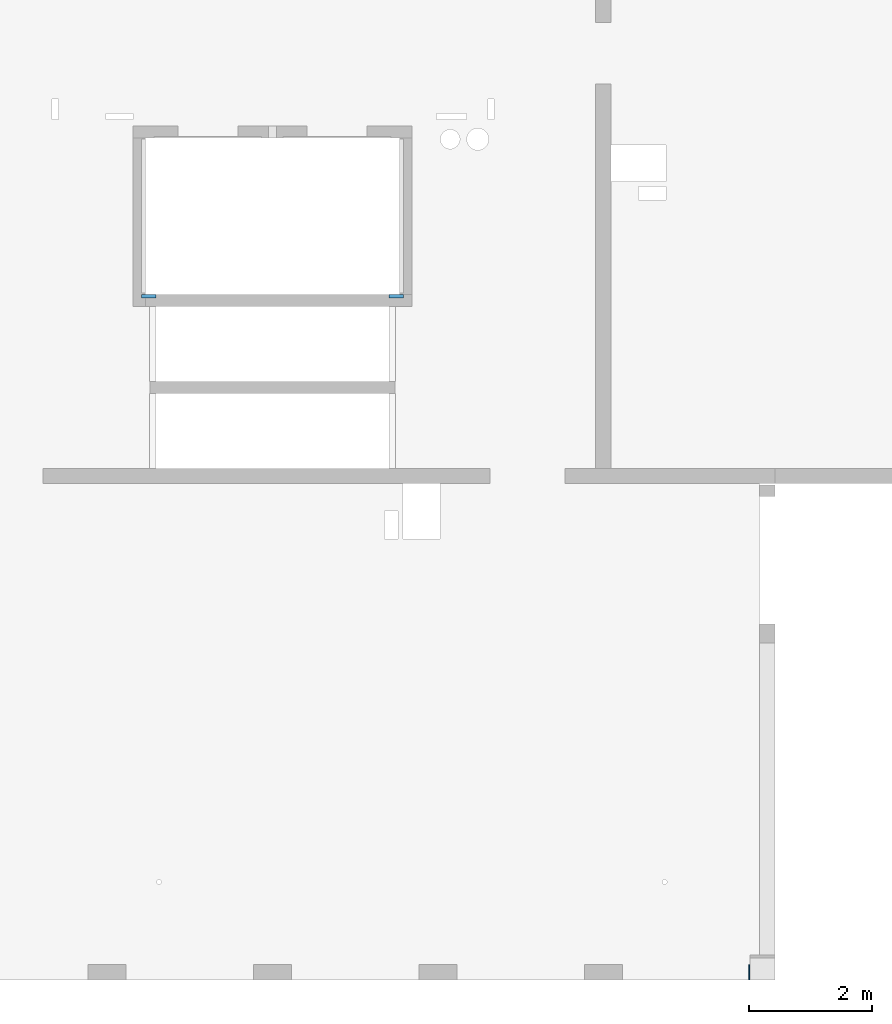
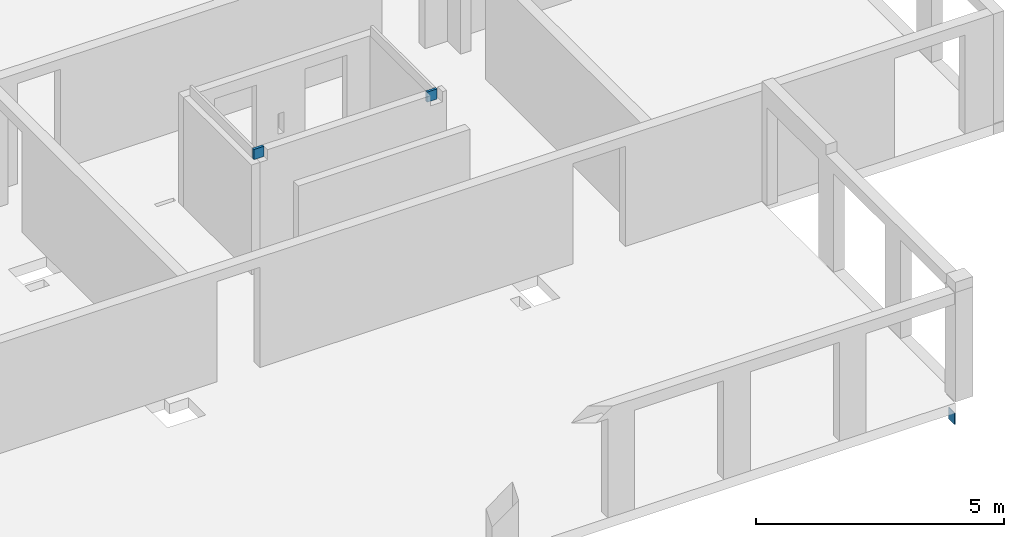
# One storey, part 7 of 8: 3 walls.
"""IFC2X3 building model written with IfcOpenShell, lengths in millimetres."""

from ifc_helpers import new_model, entity, si_unit, converted_unit, derived_unit, direction, frame, frame_2d, origin, place, context, subcontext, project, spatial, rectangle, extrude, material, layer, layer_set, layer_usage, type_object, element, save


model = new_model("IFC2X3")

# Units and contexts
model_context = context("Model", 3, precision=0.01, world=origin(), true_north=direction((6.12303176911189e-17, 1.0)))
body_context = subcontext(model_context, "Body", "Model", "MODEL_VIEW")
ifc_project = project(units=[si_unit("LENGTHUNIT", "METRE", prefix="MILLI"), si_unit("AREAUNIT", "SQUARE_METRE"), si_unit("VOLUMEUNIT", "CUBIC_METRE"), converted_unit("PLANEANGLEUNIT", "DEGREE", entity("IfcRatioMeasure", 0.0174532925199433), si_unit("PLANEANGLEUNIT", "RADIAN"), dimensions=[0, 0, 0, 0, 0, 0, 0]), si_unit("MASSUNIT", "GRAM", prefix="KILO"), derived_unit("MASSDENSITYUNIT", [(si_unit("MASSUNIT", "GRAM", prefix="KILO"), 1), (si_unit("LENGTHUNIT", "METRE"), -3)]), si_unit("TIMEUNIT", "SECOND"), si_unit("FREQUENCYUNIT", "HERTZ"), si_unit("THERMODYNAMICTEMPERATUREUNIT", "DEGREE_CELSIUS"), derived_unit("THERMALTRANSMITTANCEUNIT", [(si_unit("MASSUNIT", "GRAM", prefix="KILO"), 1), (si_unit("THERMODYNAMICTEMPERATUREUNIT", "KELVIN"), -1), (si_unit("TIMEUNIT", "SECOND"), -3)]), derived_unit("VOLUMETRICFLOWRATEUNIT", [(si_unit("LENGTHUNIT", "METRE"), 3), (si_unit("TIMEUNIT", "SECOND"), -1)]), si_unit("ELECTRICCURRENTUNIT", "AMPERE"), si_unit("ELECTRICVOLTAGEUNIT", "VOLT"), si_unit("POWERUNIT", "WATT"), si_unit("FORCEUNIT", "NEWTON", prefix="KILO"), si_unit("ILLUMINANCEUNIT", "LUX"), si_unit("LUMINOUSFLUXUNIT", "LUMEN"), si_unit("LUMINOUSINTENSITYUNIT", "CANDELA"), derived_unit("USERDEFINED", [(si_unit("MASSUNIT", "GRAM", prefix="KILO"), -1), (si_unit("LENGTHUNIT", "METRE"), -2), (si_unit("TIMEUNIT", "SECOND"), 3), (si_unit("LUMINOUSFLUXUNIT", "LUMEN"), 1)]), derived_unit("LINEARVELOCITYUNIT", [(si_unit("LENGTHUNIT", "METRE"), 1), (si_unit("TIMEUNIT", "SECOND"), -1)]), si_unit("PRESSUREUNIT", "PASCAL"), derived_unit("USERDEFINED", [(si_unit("LENGTHUNIT", "METRE"), -2), (si_unit("MASSUNIT", "GRAM", prefix="KILO"), 1), (si_unit("TIMEUNIT", "SECOND"), -2)])], contexts=[model_context])

# Site, building, storey
site_placement = place(None, origin())
site = spatial("IfcSite", under=ifc_project, at=site_placement, Name="Default", CompositionType="ELEMENT")
building_placement = place(site_placement, origin())
building = spatial("IfcBuilding", under=site, at=building_placement, Name="niet gebruiken", CompositionType="ELEMENT")
storey_placement = place(building_placement, frame((0.0, 0.0, 51210.0)))
storey = spatial("IfcBuildingStorey", under=building, at=storey_placement, Name="17 zeventiende verdieping", CompositionType="ELEMENT", Elevation=51210.0)

# Walls
ifc_material_1 = material(Name="NLRS_f2_beton ihwg")
ifc_layer_1 = layer(ifc_material_1, 250.0)
ifc_layer_set_1 = layer_set([ifc_layer_1], Name="Basic Wall:NLRS_21.21_WA_beton ihwg d=250_gen")
ifc_layer_usage_1 = layer_usage(ifc_layer_set_1, "AXIS2", "NEGATIVE", 125.0)
wall_type_1 = type_object("IfcWallType", Name="Basic Wall:NLRS_21.21_WA_beton ihwg d=250_gen", PredefinedType="STANDARD", material=ifc_layer_set_1)
wall_1_placement = place(storey_placement, frame((99570.0, 28881.0, -620.0)))
element("IfcWallStandardCase", 1, at=wall_1_placement, inside=storey, type_object=wall_type_1, material=ifc_layer_usage_1, Name="Basic Wall:NLRS_21.21_WA_beton ihwg d=250_gen", ObjectType="Basic Wall:NLRS_21.21_WA_beton ihwg d=250_gen", context=body_context, shape_type="SweptSolid", body=[
    extrude(rectangle(XDim=19.9999999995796, YDim=250.000000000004, at=frame_2d((9.99999999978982, 1.63424829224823e-13), x_axis=(-1.0, 0.0))), origin(), (0.0, 0.0, 1.0), 280.000000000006),
])
ifc_material_2 = material(Name="NLRS_f2_beton prefab")
ifc_layer_2 = layer(ifc_material_2, 60.0)
ifc_layer_set_2 = layer_set([ifc_layer_2], Name="Basic Wall:NLRS_22.21_WA_beton prefab d=60_gen")
ifc_layer_usage_2 = layer_usage(ifc_layer_set_2, "AXIS2", "NEGATIVE", 30.0)
wall_type_2 = type_object("IfcWallType", Name="Basic Wall:NLRS_22.21_WA_beton prefab d=60_gen", PredefinedType="STANDARD", material=ifc_layer_set_2)
wall_2_placement = place(storey_placement, frame((89665.0, 39916.0, 2630.0)))
element("IfcWallStandardCase", 2, at=wall_2_placement, inside=storey, type_object=wall_type_2, material=ifc_layer_usage_2, Name="Basic Wall:NLRS_22.21_WA_beton prefab d=60_gen", ObjectType="Basic Wall:NLRS_22.21_WA_beton prefab d=60_gen", context=body_context, shape_type="SweptSolid", body=[
    extrude(rectangle(XDim=234.999967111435, YDim=60.0000000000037, at=frame_2d((117.499983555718, -4.12292422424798e-12), x_axis=(-1.0, 0.0))), origin(), (0.0, 0.0, 1.0), 250.000000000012),
])
ifc_layer_usage_3 = layer_usage(ifc_layer_set_2, "AXIS2", "POSITIVE", -30.0)
wall_3_placement = place(storey_placement, frame((93935.0, 39916.0, 2630.0), z_axis=(0.0, 0.0, 1.0), x_axis=(-1.0, 0.0, 0.0)))
element("IfcWallStandardCase", 3, at=wall_3_placement, inside=storey, type_object=wall_type_2, material=ifc_layer_usage_3, Name="Basic Wall:NLRS_22.21_WA_beton prefab d=60_gen", ObjectType="Basic Wall:NLRS_22.21_WA_beton prefab d=60_gen", context=body_context, shape_type="SweptSolid", body=[
    extrude(rectangle(XDim=234.999967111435, YDim=60.0000000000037, at=frame_2d((117.499983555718, 4.12114786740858e-12), x_axis=(-1.0, 0.0))), origin(), (0.0, 0.0, 1.0), 250.000000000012),
])

save(model, "model.ifc")
